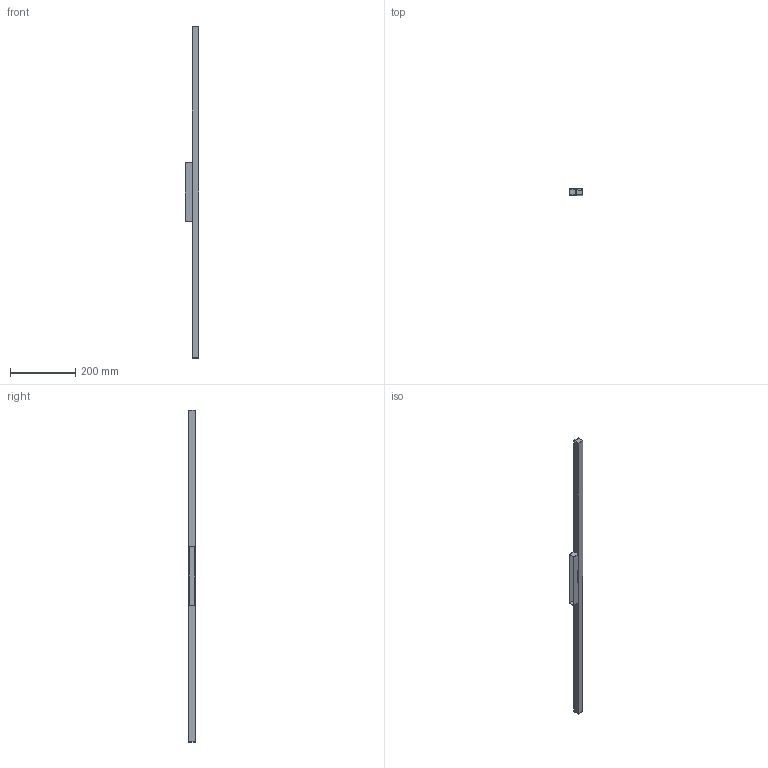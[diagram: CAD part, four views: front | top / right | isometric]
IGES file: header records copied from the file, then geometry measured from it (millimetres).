
Start section: SolidWorks IGES file using analytic representation for surfaces
Global section: file name: C:\Users\tungari.NEMOLIGHTING\Desktop\3D\WALL_CEILING\3D_LINESCAPES102_WALL_CEILING\DEF\3D_LINESCAPES102_WALL_CEILING.IGS; native system: SolidWorks 2016; preprocessor: SolidWorks 2016; author: tungari; date: 180315.134119; units: millimetre
Bounding box: 40 x 20.03 x 1019 mm (x, y, z)
Surface area: 154421.1 mm2 (no closed solid volume)
Topology: 0 solids, 0 shells, 86 faces, 518 edges, 518 vertices
Faces by surface type: bspline 68, revolution 18
